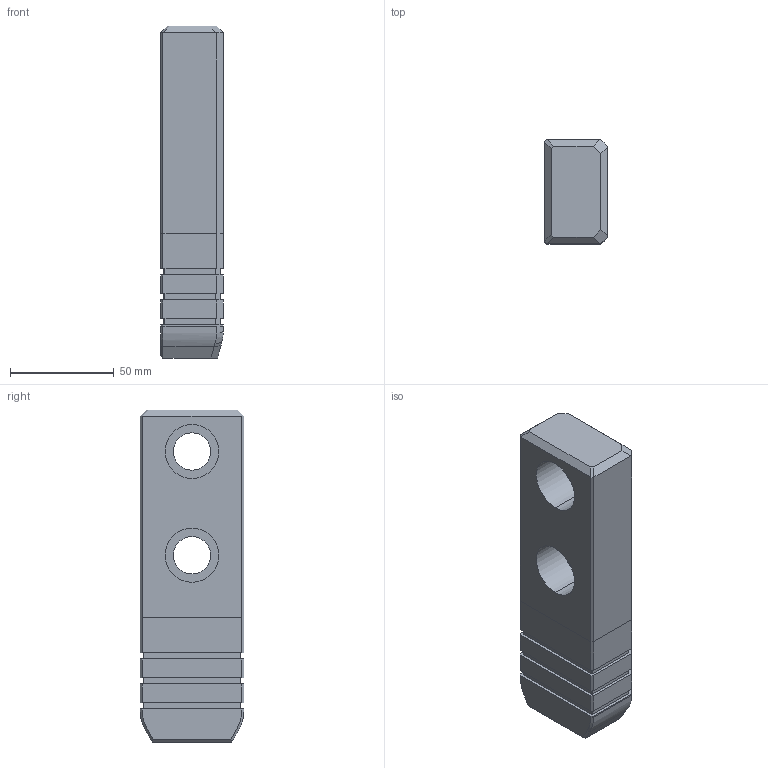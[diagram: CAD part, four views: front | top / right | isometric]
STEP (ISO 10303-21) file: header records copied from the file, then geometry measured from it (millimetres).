
FILE_DESCRIPTION((''),'2;1');
FILE_NAME('','2010-08-30T13:12:05+09:00',('misumi'),(''),'M/STEP i/f 1R2-14','CADmeister v5.1','');
FILE_SCHEMA(('AUTOMOTIVE_DESIGN'));
Length unit declared in the file: millimetre
Products named in the file (1): GWBZ50-160
Bounding box: 30 x 50 x 160 mm (x, y, z)
Volume: 207955.6 mm3; surface area: 31539 mm2
Topology: 1 solids, 1 shells, 109 faces, 275 edges, 176 vertices
Faces by surface type: plane 90, cylinder 11, bspline 6, cone 2
Entity records: 3575 total; most frequent: CARTESIAN_POINT 903, ORIENTED_EDGE 550, DIRECTION 485, EDGE_CURVE 275, LINE 237, VECTOR 237, VERTEX_POINT 176, AXIS2_PLACEMENT_3D 124
